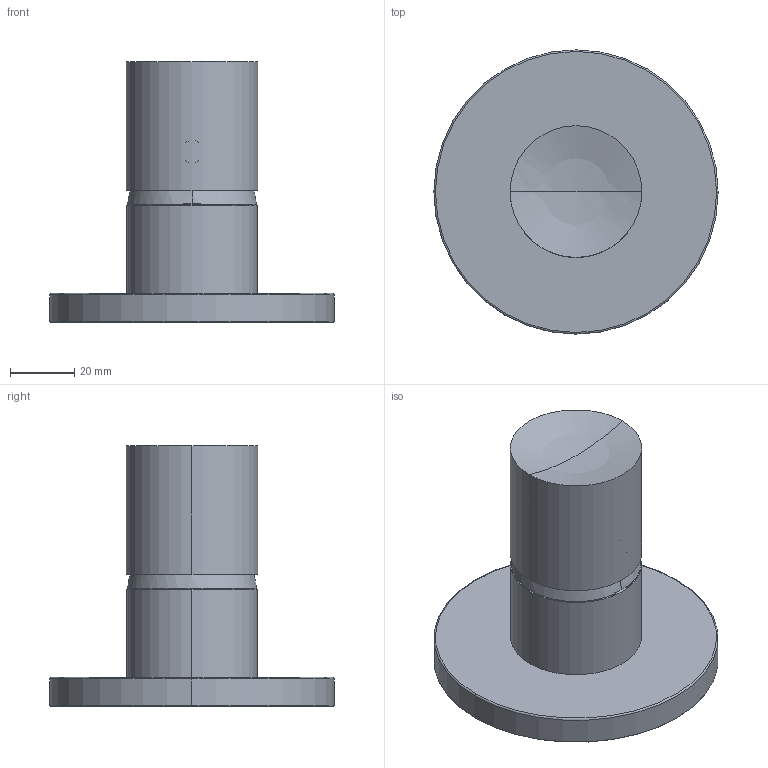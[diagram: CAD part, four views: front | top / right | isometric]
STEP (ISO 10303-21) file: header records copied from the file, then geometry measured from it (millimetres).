
FILE_DESCRIPTION((''),'2;1');
FILE_NAME('MISCELATORE','2014-06-06T',('ivanv'),(''),'PRO/ENGINEER BY PARAMETRIC TECHNOLOGY CORPORATION, 2012130','PRO/ENGINEER BY PARAMETRIC TECHNOLOGY CORPORATION, 2012130','');
FILE_SCHEMA(('CONFIG_CONTROL_DESIGN'));
Length unit declared in the file: millimetre
Products named in the file (1): MISCELATORE
Bounding box: 88.5 x 88.5 x 81.1 mm (x, y, z)
Volume: 83166.7 mm3; surface area: 39475.1 mm2
Topology: 2 solids, 2 shells, 373 faces, 1009 edges, 658 vertices
Faces by surface type: plane 304, cylinder 29, cone 18, torus 16, bspline 4, sphere 2
Entity records: 11834 total; most frequent: CARTESIAN_POINT 2361, ORIENTED_EDGE 2010, DIRECTION 1849, EDGE_CURVE 1005, VECTOR 867, LINE 867, VERTEX_POINT 658, AXIS2_PLACEMENT_3D 491
